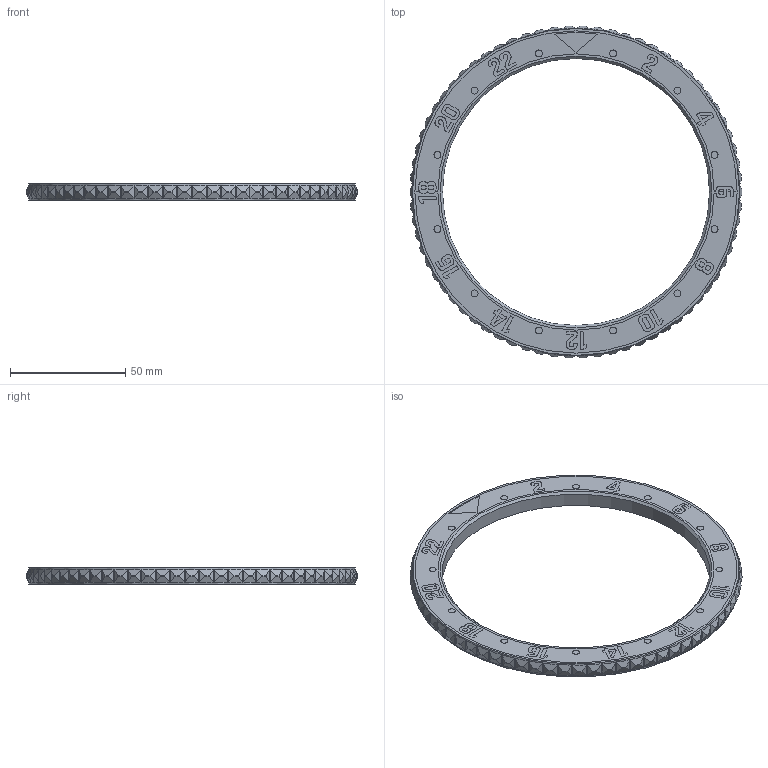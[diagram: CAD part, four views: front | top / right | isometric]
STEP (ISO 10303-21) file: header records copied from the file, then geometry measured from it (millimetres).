
FILE_DESCRIPTION(/* description */ ('STEP AP242','CAx-IF Rec.Pracs.---Representation and Presentation of Product Manufacturing Information (PMI)---4.0---2014-10-13','CAx-IF Rec.Pracs.---3D Tessellated Geometry---0.4---2014-09-14','2;1'),/* implementation_level */ '2;1');
FILE_NAME(/* name */ '66d3673e95d81402515f4061',/* time_stamp */ '2024-08-31T18:56:00Z',/* author */ (''),/* organization */ (''),/* preprocessor_version */ 'ST-DEVELOPER v20',/* originating_system */ ' ',/* authorisation */ ' ');
FILE_SCHEMA (('AP242_MANAGED_MODEL_BASED_3D_ENGINEERING_MIM_LF { 1 0 10303 442 1 1 4 }'));
Length unit declared in the file: metre
Products named in the file (47): Bezel; bezelblue; bezelred; bezeltext
Bounding box: 144.19 x 144.14 x 7 mm (x, y, z)
Volume: 20035.2 mm3; surface area: 29619.7 mm2
Topology: 47 solids, 47 shells, 1599 faces, 4293 edges, 2861 vertices
Faces by surface type: plane 1014, bspline 530, cylinder 50, cone 5
Full cylindrical faces by diameter (mm): 3 x24, 115.991 x1, 120 x1, 124.72 x1, 139.991 x1, 140.28 x1, 141.991 x1
Entity records: 52389 total; most frequent: CARTESIAN_POINT 14590, ORIENTED_EDGE 8506, DIRECTION 5666, EDGE_CURVE 4253, LINE 2948, VECTOR 2948, VERTEX_POINT 2857, EDGE_LOOP 1788
